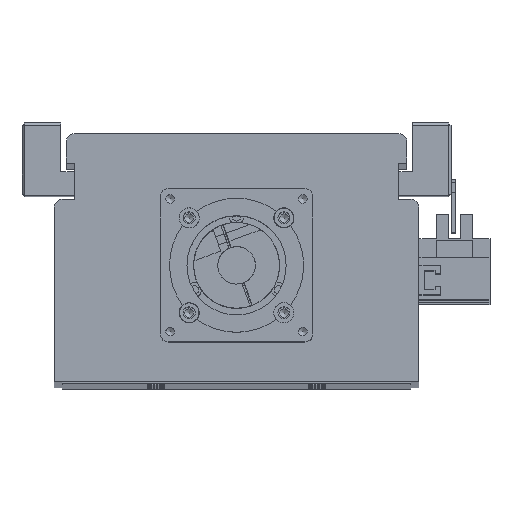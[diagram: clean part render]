
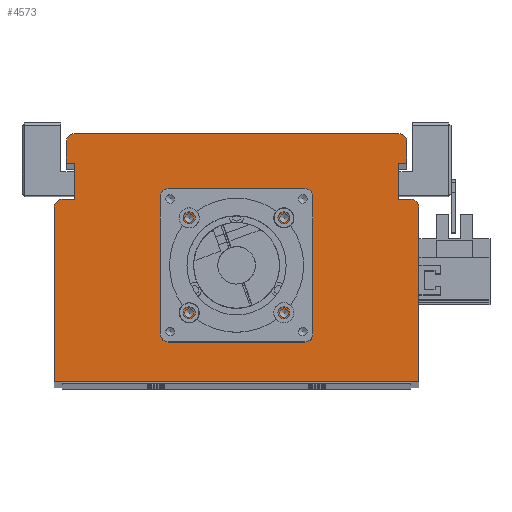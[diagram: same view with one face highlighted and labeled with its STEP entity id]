
A CAD part, top view. The second image highlights one B-rep face of the part: STEP entity #4573.
In plain terms, the highlighted planar face has unit normal (0, 0, 1).
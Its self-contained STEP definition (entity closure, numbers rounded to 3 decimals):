
#3131=CARTESIAN_POINT('',(19.321,61.5,1295.0));
#3132=VERTEX_POINT('',#3131);
#3133=CARTESIAN_POINT('',(17.7,61.5,1295.0));
#3134=DIRECTION('',(0.0,0.0,-1.0));
#3135=DIRECTION('',(1.0,0.0,0.0));
#3136=AXIS2_PLACEMENT_3D('',#3133,#3134,#3135);
#3137=CIRCLE('',#3136,1.621);
#3138=EDGE_CURVE('',#3132,#3132,#3137,.T.);
#3210=CARTESIAN_POINT('',(19.321,26.1,1295.0));
#3211=VERTEX_POINT('',#3210);
#3212=CARTESIAN_POINT('',(17.7,26.1,1295.0));
#3213=DIRECTION('',(0.0,0.0,-1.0));
#3214=DIRECTION('',(1.0,0.0,0.0));
#3215=AXIS2_PLACEMENT_3D('',#3212,#3213,#3214);
#3216=CIRCLE('',#3215,1.621);
#3217=EDGE_CURVE('',#3211,#3211,#3216,.T.);
#3289=CARTESIAN_POINT('',(-16.079,26.1,1295.0));
#3290=VERTEX_POINT('',#3289);
#3291=CARTESIAN_POINT('',(-17.7,26.1,1295.0));
#3292=DIRECTION('',(0.0,0.0,-1.0));
#3293=DIRECTION('',(1.0,0.0,0.0));
#3294=AXIS2_PLACEMENT_3D('',#3291,#3292,#3293);
#3295=CIRCLE('',#3294,1.621);
#3296=EDGE_CURVE('',#3290,#3290,#3295,.T.);
#3368=CARTESIAN_POINT('',(-16.079,61.5,1295.0));
#3369=VERTEX_POINT('',#3368);
#3370=CARTESIAN_POINT('',(-17.7,61.5,1295.0));
#3371=DIRECTION('',(0.0,0.0,-1.0));
#3372=DIRECTION('',(1.0,0.0,0.0));
#3373=AXIS2_PLACEMENT_3D('',#3370,#3371,#3372);
#3374=CIRCLE('',#3373,1.621);
#3375=EDGE_CURVE('',#3369,#3369,#3374,.T.);
#3409=CARTESIAN_POINT('',(26.5,43.8,1295.0));
#3410=VERTEX_POINT('',#3409);
#3411=CARTESIAN_POINT('',(24.5,43.8,1295.0));
#3412=DIRECTION('',(0.0,0.0,-1.0));
#3413=DIRECTION('',(1.0,0.0,0.0));
#3414=AXIS2_PLACEMENT_3D('',#3411,#3412,#3413);
#3415=CIRCLE('',#3414,2.0);
#3416=EDGE_CURVE('',#3410,#3410,#3415,.T.);
#3458=CARTESIAN_POINT('',(-22.5,43.8,1295.0));
#3459=VERTEX_POINT('',#3458);
#3460=CARTESIAN_POINT('',(-24.5,43.8,1295.0));
#3461=DIRECTION('',(0.0,0.0,-1.0));
#3462=DIRECTION('',(1.0,0.0,0.0));
#3463=AXIS2_PLACEMENT_3D('',#3460,#3461,#3462);
#3464=CIRCLE('',#3463,2.0);
#3465=EDGE_CURVE('',#3459,#3459,#3464,.T.);
#4389=CARTESIAN_POINT('',(21.05,43.8,1295.0));
#4390=VERTEX_POINT('',#4389);
#4391=CARTESIAN_POINT('',(0.0,43.8,1295.0));
#4392=DIRECTION('',(0.0,0.0,-1.0));
#4393=DIRECTION('',(-1.0,0.0,0.0));
#4394=AXIS2_PLACEMENT_3D('',#4391,#4392,#4393);
#4395=CIRCLE('',#4394,21.05);
#4396=EDGE_CURVE('',#4390,#4390,#4395,.T.);
#4413=CARTESIAN_POINT('',(0.,29.533,1295.0));
#4414=DIRECTION('',(0.0,0.0,1.0));
#4415=DIRECTION('',(1.0,0.0,0.0));
#4416=AXIS2_PLACEMENT_3D('',#4413,#4414,#4415);
#4417=PLANE('',#4416);
#4418=CARTESIAN_POINT('',(-65.,68.5,1295.0));
#4419=VERTEX_POINT('',#4418);
#4420=CARTESIAN_POINT('',(-60.5,68.5,1295.0));
#4421=VERTEX_POINT('',#4420);
#4422=CARTESIAN_POINT('',(-65.,68.5,1295.0));
#4423=DIRECTION('',(1.0,0.0,0.0));
#4424=VECTOR('',#4423,4.5);
#4425=LINE('',#4422,#4424);
#4426=EDGE_CURVE('',#4419,#4421,#4425,.T.);
#4427=ORIENTED_EDGE('',*,*,#4426,.F.);
#4428=CARTESIAN_POINT('',(-68.,65.5,1295.0));
#4429=VERTEX_POINT('',#4428);
#4430=CARTESIAN_POINT('',(-65.,65.5,1295.0));
#4431=DIRECTION('',(0.0,0.0,-1.0));
#4432=DIRECTION('',(0.0,1.0,0.0));
#4433=AXIS2_PLACEMENT_3D('',#4430,#4431,#4432);
#4434=CIRCLE('',#4433,3.);
#4435=EDGE_CURVE('',#4429,#4419,#4434,.T.);
#4436=ORIENTED_EDGE('',*,*,#4435,.F.);
#4437=CARTESIAN_POINT('',(-68.0,0.5,1295.0));
#4438=VERTEX_POINT('',#4437);
#4439=CARTESIAN_POINT('',(-68.0,0.5,1295.0));
#4440=DIRECTION('',(0.0,1.0,0.0));
#4441=VECTOR('',#4440,65.0);
#4442=LINE('',#4439,#4441);
#4443=EDGE_CURVE('',#4438,#4429,#4442,.T.);
#4444=ORIENTED_EDGE('',*,*,#4443,.F.);
#4445=CARTESIAN_POINT('',(68.0,0.5,1295.0));
#4446=VERTEX_POINT('',#4445);
#4447=CARTESIAN_POINT('',(68.0,0.5,1295.0));
#4448=DIRECTION('',(-1.0,0.0,0.0));
#4449=VECTOR('',#4448,136.0);
#4450=LINE('',#4447,#4449);
#4451=EDGE_CURVE('',#4446,#4438,#4450,.T.);
#4452=ORIENTED_EDGE('',*,*,#4451,.F.);
#4453=CARTESIAN_POINT('',(68.0,65.5,1295.0));
#4454=VERTEX_POINT('',#4453);
#4455=CARTESIAN_POINT('',(68.0,65.5,1295.0));
#4456=DIRECTION('',(0.0,-1.0,0.0));
#4457=VECTOR('',#4456,65.0);
#4458=LINE('',#4455,#4457);
#4459=EDGE_CURVE('',#4454,#4446,#4458,.T.);
#4460=ORIENTED_EDGE('',*,*,#4459,.F.);
#4461=CARTESIAN_POINT('',(65.,68.5,1295.0));
#4462=VERTEX_POINT('',#4461);
#4463=CARTESIAN_POINT('',(65.,65.5,1295.0));
#4464=DIRECTION('',(0.0,0.0,-1.0));
#4465=DIRECTION('',(1.0,0.0,0.0));
#4466=AXIS2_PLACEMENT_3D('',#4463,#4464,#4465);
#4467=CIRCLE('',#4466,3.);
#4468=EDGE_CURVE('',#4462,#4454,#4467,.T.);
#4469=ORIENTED_EDGE('',*,*,#4468,.F.);
#4470=CARTESIAN_POINT('',(60.5,68.5,1295.0));
#4471=VERTEX_POINT('',#4470);
#4472=CARTESIAN_POINT('',(60.5,68.5,1295.0));
#4473=DIRECTION('',(1.0,0.0,0.0));
#4474=VECTOR('',#4473,4.5);
#4475=LINE('',#4472,#4474);
#4476=EDGE_CURVE('',#4471,#4462,#4475,.T.);
#4477=ORIENTED_EDGE('',*,*,#4476,.F.);
#4478=CARTESIAN_POINT('',(60.5,82.,1295.0));
#4479=VERTEX_POINT('',#4478);
#4480=CARTESIAN_POINT('',(60.5,82.,1295.0));
#4481=DIRECTION('',(0.0,-1.0,0.0));
#4482=VECTOR('',#4481,13.5);
#4483=LINE('',#4480,#4482);
#4484=EDGE_CURVE('',#4479,#4471,#4483,.T.);
#4485=ORIENTED_EDGE('',*,*,#4484,.F.);
#4486=CARTESIAN_POINT('',(63.5,82.,1295.0));
#4487=VERTEX_POINT('',#4486);
#4488=CARTESIAN_POINT('',(63.5,82.,1295.0));
#4489=DIRECTION('',(-1.0,0.0,0.0));
#4490=VECTOR('',#4489,3.0);
#4491=LINE('',#4488,#4490);
#4492=EDGE_CURVE('',#4487,#4479,#4491,.T.);
#4493=ORIENTED_EDGE('',*,*,#4492,.F.);
#4494=CARTESIAN_POINT('',(63.5,90.0,1295.0));
#4495=VERTEX_POINT('',#4494);
#4496=CARTESIAN_POINT('',(63.5,90.0,1295.0));
#4497=DIRECTION('',(0.0,-1.0,0.0));
#4498=VECTOR('',#4497,8.);
#4499=LINE('',#4496,#4498);
#4500=EDGE_CURVE('',#4495,#4487,#4499,.T.);
#4501=ORIENTED_EDGE('',*,*,#4500,.F.);
#4502=CARTESIAN_POINT('',(60.5,93.,1295.0));
#4503=VERTEX_POINT('',#4502);
#4504=CARTESIAN_POINT('',(60.5,90.0,1295.0));
#4505=DIRECTION('',(0.0,0.0,-1.0));
#4506=DIRECTION('',(1.0,0.0,0.0));
#4507=AXIS2_PLACEMENT_3D('',#4504,#4505,#4506);
#4508=CIRCLE('',#4507,3.);
#4509=EDGE_CURVE('',#4503,#4495,#4508,.T.);
#4510=ORIENTED_EDGE('',*,*,#4509,.F.);
#4511=CARTESIAN_POINT('',(-60.5,93.0,1295.0));
#4512=VERTEX_POINT('',#4511);
#4513=CARTESIAN_POINT('',(-60.5,93.0,1295.0));
#4514=DIRECTION('',(1.0,0.0,0.0));
#4515=VECTOR('',#4514,121.0);
#4516=LINE('',#4513,#4515);
#4517=EDGE_CURVE('',#4512,#4503,#4516,.T.);
#4518=ORIENTED_EDGE('',*,*,#4517,.F.);
#4519=CARTESIAN_POINT('',(-63.5,90.0,1295.0));
#4520=VERTEX_POINT('',#4519);
#4521=CARTESIAN_POINT('',(-60.5,90.0,1295.0));
#4522=DIRECTION('',(0.0,0.0,-1.0));
#4523=DIRECTION('',(0.0,1.0,0.0));
#4524=AXIS2_PLACEMENT_3D('',#4521,#4522,#4523);
#4525=CIRCLE('',#4524,3.);
#4526=EDGE_CURVE('',#4520,#4512,#4525,.T.);
#4527=ORIENTED_EDGE('',*,*,#4526,.F.);
#4528=CARTESIAN_POINT('',(-63.5,82.,1295.0));
#4529=VERTEX_POINT('',#4528);
#4530=CARTESIAN_POINT('',(-63.5,82.,1295.0));
#4531=DIRECTION('',(0.0,1.0,0.0));
#4532=VECTOR('',#4531,8.);
#4533=LINE('',#4530,#4532);
#4534=EDGE_CURVE('',#4529,#4520,#4533,.T.);
#4535=ORIENTED_EDGE('',*,*,#4534,.F.);
#4536=CARTESIAN_POINT('',(-60.5,82.,1295.0));
#4537=VERTEX_POINT('',#4536);
#4538=CARTESIAN_POINT('',(-60.5,82.,1295.0));
#4539=DIRECTION('',(-1.0,0.0,0.0));
#4540=VECTOR('',#4539,3.);
#4541=LINE('',#4538,#4540);
#4542=EDGE_CURVE('',#4537,#4529,#4541,.T.);
#4543=ORIENTED_EDGE('',*,*,#4542,.F.);
#4544=CARTESIAN_POINT('',(-60.5,68.5,1295.0));
#4545=DIRECTION('',(0.0,1.0,0.0));
#4546=VECTOR('',#4545,13.5);
#4547=LINE('',#4544,#4546);
#4548=EDGE_CURVE('',#4421,#4537,#4547,.T.);
#4549=ORIENTED_EDGE('',*,*,#4548,.F.);
#4550=EDGE_LOOP('',(#4427,#4436,#4444,#4452,#4460,#4469,#4477,#4485,#4493,#4501,#4510,#4518,#4527,#4535,#4543,#4549));
#4551=FACE_OUTER_BOUND('',#4550,.T.);
#4552=ORIENTED_EDGE('',*,*,#3138,.T.);
#4553=EDGE_LOOP('',(#4552));
#4554=FACE_BOUND('',#4553,.T.);
#4555=ORIENTED_EDGE('',*,*,#3217,.T.);
#4556=EDGE_LOOP('',(#4555));
#4557=FACE_BOUND('',#4556,.T.);
#4558=ORIENTED_EDGE('',*,*,#3296,.T.);
#4559=EDGE_LOOP('',(#4558));
#4560=FACE_BOUND('',#4559,.T.);
#4561=ORIENTED_EDGE('',*,*,#3375,.T.);
#4562=EDGE_LOOP('',(#4561));
#4563=FACE_BOUND('',#4562,.T.);
#4564=ORIENTED_EDGE('',*,*,#3416,.T.);
#4565=EDGE_LOOP('',(#4564));
#4566=FACE_BOUND('',#4565,.T.);
#4567=ORIENTED_EDGE('',*,*,#3465,.T.);
#4568=EDGE_LOOP('',(#4567));
#4569=FACE_BOUND('',#4568,.T.);
#4570=ORIENTED_EDGE('',*,*,#4396,.T.);
#4571=EDGE_LOOP('',(#4570));
#4572=FACE_BOUND('',#4571,.T.);
#4573=ADVANCED_FACE('',(#4551,#4554,#4557,#4560,#4563,#4566,#4569,#4572),#4417,.T.);
